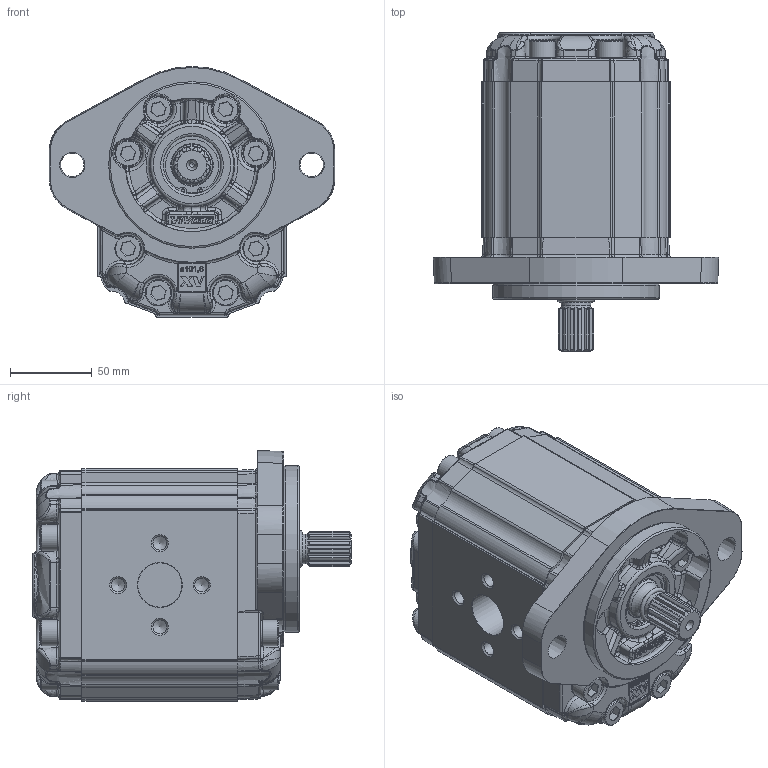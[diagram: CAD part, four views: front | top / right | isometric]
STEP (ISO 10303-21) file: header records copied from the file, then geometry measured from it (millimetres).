
FILE_DESCRIPTION(/* description */ ('Unknown'),/* implementation_level */ '2;1');
FILE_NAME(/* name */ 'X3U8131IBBA',/* time_stamp */ '2021-04-26T09:56:51+02:00',/* author */ ('Unknown'),/* organization */ ('Unknown'),/* preprocessor_version */ 'ST-DEVELOPER v16.7',/* originating_system */ 'Solid Edge',/* authorisation */ 'Unknown');
FILE_SCHEMA (('AUTOMOTIVE_DESIGN {1 0 10303 214 3 1 1}'));
Products named in the file (5): X3U8131IBBA; X3U31; 3I; X3BBH95; XU331-A
Assembly tree (4 placements, depth 2):
  X3U8131IBBA
    X3U31
    3I
    X3BBH95
    XU331-A
Bounding box: 174 x 194.2 x 153 mm (x, y, z)
Volume: 2200381.3 mm3; surface area: 210869.5 mm2
Topology: 4 solids, 21 shells, 3065 faces, 7898 edges, 4997 vertices
Faces by surface type: bspline 1317, plane 873, cylinder 654, cone 106, torus 99, sphere 16
Full cylindrical faces by diameter (mm): 2 x2, 8.376 x8, 10 x16, 15.8 x16, 16 x16, 18 x2, 24.98 x1, 25.5 x1, 26.8 x1, 27 x2, 29.425 x1, 31.42 x1, 33.304 x1, 34.7 x1, 35 x2, 35.2 x1, 37 x1, 101.6 x1
Entity records: 162889 total; most frequent: CARTESIAN_POINT 82483, ORIENTED_EDGE 15328, EDGE_CURVE 7664, DIRECTION 6742, B_SPLINE_CURVE_WITH_KNOTS 4985, VERTEX_POINT 4931, FACE_BOUND 3367, EDGE_LOOP 3358
